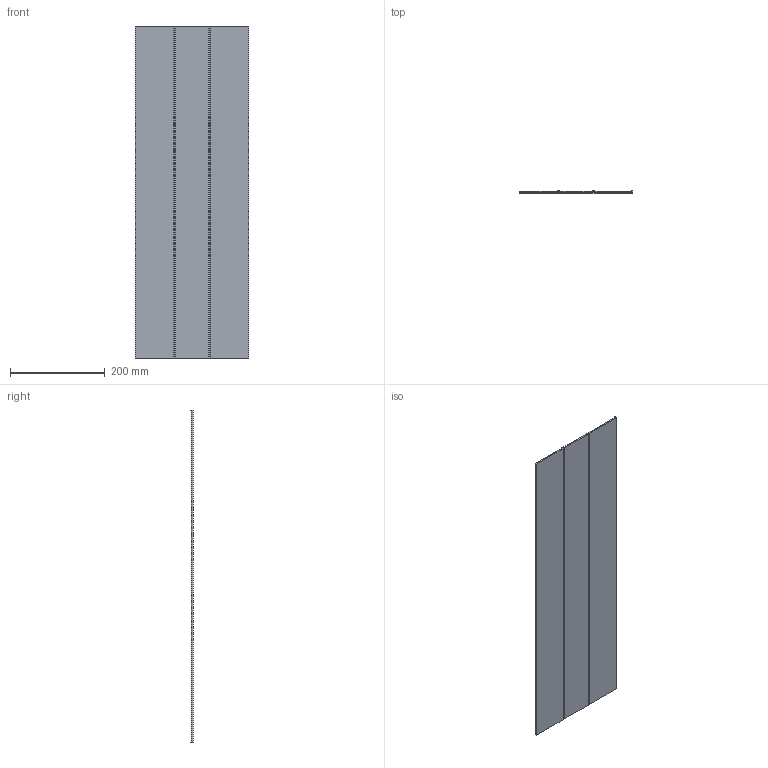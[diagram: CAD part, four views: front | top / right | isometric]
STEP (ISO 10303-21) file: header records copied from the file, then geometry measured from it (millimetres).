
FILE_DESCRIPTION (( 'STEP AP203' ), '1' );
FILE_NAME ('DN53515.STEP', '2025-10-31T07:15:13', ( '' ), ( '' ), 'SwSTEP 2.0', 'SolidWorks 2019', '' );
FILE_SCHEMA (( 'CONFIG_CONTROL_DESIGN' ));
Length unit declared in the file: millimetre
Products named in the file (1): DN53515
Bounding box: 240 x 4.99 x 700 mm (x, y, z)
Volume: 505169.6 mm3; surface area: 352070.1 mm2
Topology: 1 solids, 1 shells, 47 faces, 135 edges, 90 vertices
Faces by surface type: plane 38, cylinder 9
Entity records: 1604 total; most frequent: CARTESIAN_POINT 273, ORIENTED_EDGE 270, DIRECTION 249, EDGE_CURVE 135, LINE 117, VECTOR 117, VERTEX_POINT 90, AXIS2_PLACEMENT_3D 66
